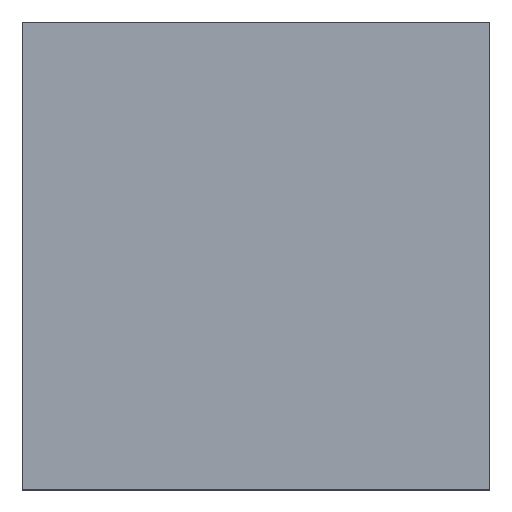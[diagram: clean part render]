
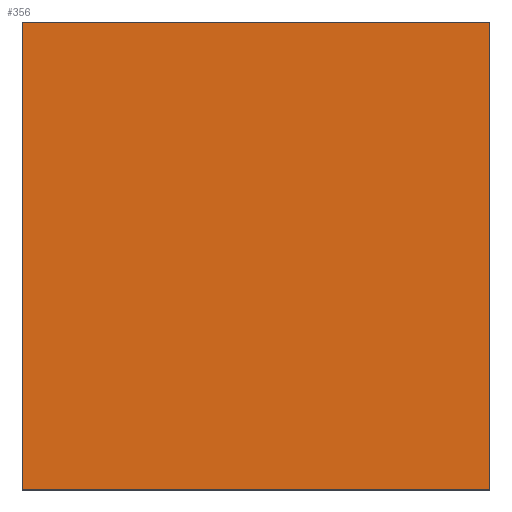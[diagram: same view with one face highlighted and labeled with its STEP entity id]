
A CAD part, top view. The second image highlights one B-rep face of the part: STEP entity #356.
In plain terms, the highlighted planar face has unit normal (0, 0, 1).
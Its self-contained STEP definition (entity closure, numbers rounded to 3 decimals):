
#42 = VERTEX_POINT('',#43);
#43 = CARTESIAN_POINT('',(14.5,-40.5,-0.035));
#50 = PLANE('',#51);
#51 = AXIS2_PLACEMENT_3D('',#52,#53,#54);
#52 = CARTESIAN_POINT('',(14.5,-40.5,-6.289));
#53 = DIRECTION('',(1.,0.,-0.));
#54 = DIRECTION('',(0.,0.,1.));
#62 = PLANE('',#63);
#63 = AXIS2_PLACEMENT_3D('',#64,#65,#66);
#64 = CARTESIAN_POINT('',(14.5,-40.5,-6.289));
#65 = DIRECTION('',(-0.,1.,0.));
#66 = DIRECTION('',(0.,0.,1.));
#103 = VERTEX_POINT('',#104);
#104 = CARTESIAN_POINT('',(14.5,-14.5,-0.035));
#118 = PLANE('',#119);
#119 = AXIS2_PLACEMENT_3D('',#120,#121,#122);
#120 = CARTESIAN_POINT('',(14.5,-14.5,-6.289));
#121 = DIRECTION('',(-0.,1.,0.));
#122 = DIRECTION('',(0.,0.,1.));
#130 = EDGE_CURVE('',#42,#103,#131,.T.);
#131 = SURFACE_CURVE('',#132,(#136,#143),.PCURVE_S1.);
#132 = LINE('',#133,#134);
#133 = CARTESIAN_POINT('',(14.5,-40.5,-0.035));
#134 = VECTOR('',#135,1.);
#135 = DIRECTION('',(-0.,1.,0.));
#136 = PCURVE('',#50,#137);
#137 = DEFINITIONAL_REPRESENTATION('',(#138),#142);
#138 = LINE('',#139,#140);
#139 = CARTESIAN_POINT('',(6.254,0.));
#140 = VECTOR('',#141,1.);
#141 = DIRECTION('',(0.,-1.));
#142 = ( GEOMETRIC_REPRESENTATION_CONTEXT(2) 
PARAMETRIC_REPRESENTATION_CONTEXT() REPRESENTATION_CONTEXT('2D SPACE',''
  ) );
#143 = PCURVE('',#144,#149);
#144 = PLANE('',#145);
#145 = AXIS2_PLACEMENT_3D('',#146,#147,#148);
#146 = CARTESIAN_POINT('',(14.5,-40.5,-0.035));
#147 = DIRECTION('',(0.,0.,1.));
#148 = DIRECTION('',(1.,0.,-0.));
#149 = DEFINITIONAL_REPRESENTATION('',(#150),#154);
#150 = LINE('',#151,#152);
#151 = CARTESIAN_POINT('',(0.,0.));
#152 = VECTOR('',#153,1.);
#153 = DIRECTION('',(0.,1.));
#154 = ( GEOMETRIC_REPRESENTATION_CONTEXT(2) 
PARAMETRIC_REPRESENTATION_CONTEXT() REPRESENTATION_CONTEXT('2D SPACE',''
  ) );
#162 = VERTEX_POINT('',#163);
#163 = CARTESIAN_POINT('',(40.5,-40.5,-0.035));
#170 = PLANE('',#171);
#171 = AXIS2_PLACEMENT_3D('',#172,#173,#174);
#172 = CARTESIAN_POINT('',(40.5,-40.5,-6.289));
#173 = DIRECTION('',(1.,0.,-0.));
#174 = DIRECTION('',(0.,0.,1.));
#213 = VERTEX_POINT('',#214);
#214 = CARTESIAN_POINT('',(40.5,-14.5,-0.035));
#235 = EDGE_CURVE('',#162,#213,#236,.T.);
#236 = SURFACE_CURVE('',#237,(#241,#248),.PCURVE_S1.);
#237 = LINE('',#238,#239);
#238 = CARTESIAN_POINT('',(40.5,-40.5,-0.035));
#239 = VECTOR('',#240,1.);
#240 = DIRECTION('',(-0.,1.,0.));
#241 = PCURVE('',#170,#242);
#242 = DEFINITIONAL_REPRESENTATION('',(#243),#247);
#243 = LINE('',#244,#245);
#244 = CARTESIAN_POINT('',(6.254,0.));
#245 = VECTOR('',#246,1.);
#246 = DIRECTION('',(0.,-1.));
#247 = ( GEOMETRIC_REPRESENTATION_CONTEXT(2) 
PARAMETRIC_REPRESENTATION_CONTEXT() REPRESENTATION_CONTEXT('2D SPACE',''
  ) );
#248 = PCURVE('',#144,#249);
#249 = DEFINITIONAL_REPRESENTATION('',(#250),#254);
#250 = LINE('',#251,#252);
#251 = CARTESIAN_POINT('',(26.,0.));
#252 = VECTOR('',#253,1.);
#253 = DIRECTION('',(0.,1.));
#254 = ( GEOMETRIC_REPRESENTATION_CONTEXT(2) 
PARAMETRIC_REPRESENTATION_CONTEXT() REPRESENTATION_CONTEXT('2D SPACE',''
  ) );
#281 = EDGE_CURVE('',#42,#162,#282,.T.);
#282 = SURFACE_CURVE('',#283,(#287,#294),.PCURVE_S1.);
#283 = LINE('',#284,#285);
#284 = CARTESIAN_POINT('',(14.5,-40.5,-0.035));
#285 = VECTOR('',#286,1.);
#286 = DIRECTION('',(1.,0.,-0.));
#287 = PCURVE('',#62,#288);
#288 = DEFINITIONAL_REPRESENTATION('',(#289),#293);
#289 = LINE('',#290,#291);
#290 = CARTESIAN_POINT('',(6.254,0.));
#291 = VECTOR('',#292,1.);
#292 = DIRECTION('',(0.,1.));
#293 = ( GEOMETRIC_REPRESENTATION_CONTEXT(2) 
PARAMETRIC_REPRESENTATION_CONTEXT() REPRESENTATION_CONTEXT('2D SPACE',''
  ) );
#294 = PCURVE('',#144,#295);
#295 = DEFINITIONAL_REPRESENTATION('',(#296),#300);
#296 = LINE('',#297,#298);
#297 = CARTESIAN_POINT('',(0.,0.));
#298 = VECTOR('',#299,1.);
#299 = DIRECTION('',(1.,0.));
#300 = ( GEOMETRIC_REPRESENTATION_CONTEXT(2) 
PARAMETRIC_REPRESENTATION_CONTEXT() REPRESENTATION_CONTEXT('2D SPACE',''
  ) );
#328 = EDGE_CURVE('',#103,#213,#329,.T.);
#329 = SURFACE_CURVE('',#330,(#334,#341),.PCURVE_S1.);
#330 = LINE('',#331,#332);
#331 = CARTESIAN_POINT('',(14.5,-14.5,-0.035));
#332 = VECTOR('',#333,1.);
#333 = DIRECTION('',(1.,0.,-0.));
#334 = PCURVE('',#118,#335);
#335 = DEFINITIONAL_REPRESENTATION('',(#336),#340);
#336 = LINE('',#337,#338);
#337 = CARTESIAN_POINT('',(6.254,0.));
#338 = VECTOR('',#339,1.);
#339 = DIRECTION('',(0.,1.));
#340 = ( GEOMETRIC_REPRESENTATION_CONTEXT(2) 
PARAMETRIC_REPRESENTATION_CONTEXT() REPRESENTATION_CONTEXT('2D SPACE',''
  ) );
#341 = PCURVE('',#144,#342);
#342 = DEFINITIONAL_REPRESENTATION('',(#343),#347);
#343 = LINE('',#344,#345);
#344 = CARTESIAN_POINT('',(0.,26.));
#345 = VECTOR('',#346,1.);
#346 = DIRECTION('',(1.,0.));
#347 = ( GEOMETRIC_REPRESENTATION_CONTEXT(2) 
PARAMETRIC_REPRESENTATION_CONTEXT() REPRESENTATION_CONTEXT('2D SPACE',''
  ) );
#356 = ADVANCED_FACE('',(#357),#144,.T.);
#357 = FACE_BOUND('',#358,.T.);
#358 = EDGE_LOOP('',(#359,#360,#361,#362));
#359 = ORIENTED_EDGE('',*,*,#130,.F.);
#360 = ORIENTED_EDGE('',*,*,#281,.T.);
#361 = ORIENTED_EDGE('',*,*,#235,.T.);
#362 = ORIENTED_EDGE('',*,*,#328,.F.);
